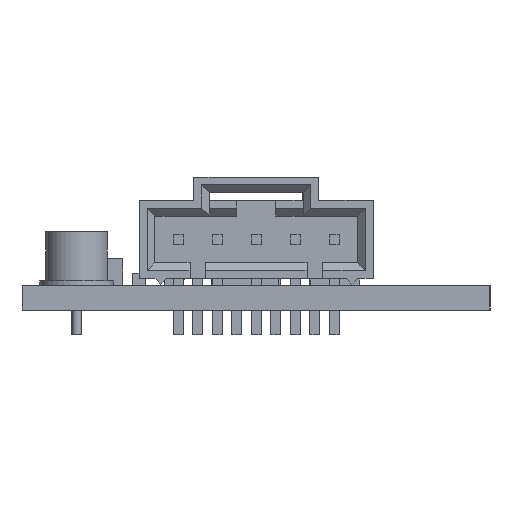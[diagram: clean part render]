
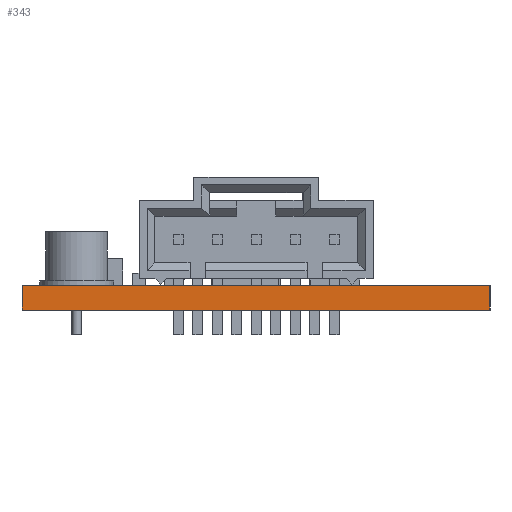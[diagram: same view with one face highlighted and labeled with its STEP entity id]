
A CAD part, left-side view. The second image highlights one B-rep face of the part: STEP entity #343.
In plain terms, the highlighted planar face has unit normal (-1, 0, 0).
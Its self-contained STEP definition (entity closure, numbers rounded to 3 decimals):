
#80 = EDGE_CURVE('',#81,#83,#85,.T.);
#81 = VERTEX_POINT('',#82);
#82 = CARTESIAN_POINT('',(0.,0.,0.));
#83 = VERTEX_POINT('',#84);
#84 = CARTESIAN_POINT('',(0.,0.,1.6));
#85 = SURFACE_CURVE('',#86,(#90,#102),.PCURVE_S1.);
#86 = LINE('',#87,#88);
#87 = CARTESIAN_POINT('',(0.,0.,0.));
#88 = VECTOR('',#89,1.);
#89 = DIRECTION('',(0.,0.,1.));
#90 = PCURVE('',#91,#96);
#91 = PLANE('',#92);
#92 = AXIS2_PLACEMENT_3D('',#93,#94,#95);
#93 = CARTESIAN_POINT('',(0.,0.,0.));
#94 = DIRECTION('',(0.,1.,0.));
#95 = DIRECTION('',(1.,0.,0.));
#96 = DEFINITIONAL_REPRESENTATION('',(#97),#101);
#97 = LINE('',#98,#99);
#98 = CARTESIAN_POINT('',(0.,0.));
#99 = VECTOR('',#100,1.);
#100 = DIRECTION('',(0.,-1.));
#101 = ( GEOMETRIC_REPRESENTATION_CONTEXT(2) 
PARAMETRIC_REPRESENTATION_CONTEXT() REPRESENTATION_CONTEXT('2D SPACE',''
  ) );
#102 = PCURVE('',#103,#108);
#103 = PLANE('',#104);
#104 = AXIS2_PLACEMENT_3D('',#105,#106,#107);
#105 = CARTESIAN_POINT('',(0.,30.48,0.));
#106 = DIRECTION('',(1.,0.,0.));
#107 = DIRECTION('',(0.,-1.,0.));
#108 = DEFINITIONAL_REPRESENTATION('',(#109),#113);
#109 = LINE('',#110,#111);
#110 = CARTESIAN_POINT('',(30.48,0.));
#111 = VECTOR('',#112,1.);
#112 = DIRECTION('',(0.,-1.));
#113 = ( GEOMETRIC_REPRESENTATION_CONTEXT(2) 
PARAMETRIC_REPRESENTATION_CONTEXT() REPRESENTATION_CONTEXT('2D SPACE',''
  ) );
#131 = PLANE('',#132);
#132 = AXIS2_PLACEMENT_3D('',#133,#134,#135);
#133 = CARTESIAN_POINT('',(0.,0.,1.6));
#134 = DIRECTION('',(0.,0.,-1.));
#135 = DIRECTION('',(-1.,0.,0.));
#185 = PLANE('',#186);
#186 = AXIS2_PLACEMENT_3D('',#187,#188,#189);
#187 = CARTESIAN_POINT('',(0.,0.,0.));
#188 = DIRECTION('',(0.,0.,-1.));
#189 = DIRECTION('',(-1.,0.,0.));
#240 = PLANE('',#241);
#241 = AXIS2_PLACEMENT_3D('',#242,#243,#244);
#242 = CARTESIAN_POINT('',(45.72,30.48,0.));
#243 = DIRECTION('',(0.,-1.,0.));
#244 = DIRECTION('',(-1.,0.,0.));
#278 = VERTEX_POINT('',#279);
#279 = CARTESIAN_POINT('',(0.,30.48,1.6));
#300 = EDGE_CURVE('',#301,#278,#303,.T.);
#301 = VERTEX_POINT('',#302);
#302 = CARTESIAN_POINT('',(0.,30.48,0.));
#303 = SURFACE_CURVE('',#304,(#308,#315),.PCURVE_S1.);
#304 = LINE('',#305,#306);
#305 = CARTESIAN_POINT('',(0.,30.48,0.));
#306 = VECTOR('',#307,1.);
#307 = DIRECTION('',(0.,0.,1.));
#308 = PCURVE('',#240,#309);
#309 = DEFINITIONAL_REPRESENTATION('',(#310),#314);
#310 = LINE('',#311,#312);
#311 = CARTESIAN_POINT('',(45.72,0.));
#312 = VECTOR('',#313,1.);
#313 = DIRECTION('',(0.,-1.));
#314 = ( GEOMETRIC_REPRESENTATION_CONTEXT(2) 
PARAMETRIC_REPRESENTATION_CONTEXT() REPRESENTATION_CONTEXT('2D SPACE',''
  ) );
#315 = PCURVE('',#103,#316);
#316 = DEFINITIONAL_REPRESENTATION('',(#317),#321);
#317 = LINE('',#318,#319);
#318 = CARTESIAN_POINT('',(0.,0.));
#319 = VECTOR('',#320,1.);
#320 = DIRECTION('',(0.,-1.));
#321 = ( GEOMETRIC_REPRESENTATION_CONTEXT(2) 
PARAMETRIC_REPRESENTATION_CONTEXT() REPRESENTATION_CONTEXT('2D SPACE',''
  ) );
#343 = ADVANCED_FACE('',(#344),#103,.F.);
#344 = FACE_BOUND('',#345,.F.);
#345 = EDGE_LOOP('',(#346,#347,#368,#369));
#346 = ORIENTED_EDGE('',*,*,#300,.T.);
#347 = ORIENTED_EDGE('',*,*,#348,.T.);
#348 = EDGE_CURVE('',#278,#83,#349,.T.);
#349 = SURFACE_CURVE('',#350,(#354,#361),.PCURVE_S1.);
#350 = LINE('',#351,#352);
#351 = CARTESIAN_POINT('',(0.,30.48,1.6));
#352 = VECTOR('',#353,1.);
#353 = DIRECTION('',(0.,-1.,0.));
#354 = PCURVE('',#103,#355);
#355 = DEFINITIONAL_REPRESENTATION('',(#356),#360);
#356 = LINE('',#357,#358);
#357 = CARTESIAN_POINT('',(0.,-1.6));
#358 = VECTOR('',#359,1.);
#359 = DIRECTION('',(1.,0.));
#360 = ( GEOMETRIC_REPRESENTATION_CONTEXT(2) 
PARAMETRIC_REPRESENTATION_CONTEXT() REPRESENTATION_CONTEXT('2D SPACE',''
  ) );
#361 = PCURVE('',#131,#362);
#362 = DEFINITIONAL_REPRESENTATION('',(#363),#367);
#363 = LINE('',#364,#365);
#364 = CARTESIAN_POINT('',(0.,30.48));
#365 = VECTOR('',#366,1.);
#366 = DIRECTION('',(0.,-1.));
#367 = ( GEOMETRIC_REPRESENTATION_CONTEXT(2) 
PARAMETRIC_REPRESENTATION_CONTEXT() REPRESENTATION_CONTEXT('2D SPACE',''
  ) );
#368 = ORIENTED_EDGE('',*,*,#80,.F.);
#369 = ORIENTED_EDGE('',*,*,#370,.F.);
#370 = EDGE_CURVE('',#301,#81,#371,.T.);
#371 = SURFACE_CURVE('',#372,(#376,#383),.PCURVE_S1.);
#372 = LINE('',#373,#374);
#373 = CARTESIAN_POINT('',(0.,30.48,0.));
#374 = VECTOR('',#375,1.);
#375 = DIRECTION('',(0.,-1.,0.));
#376 = PCURVE('',#103,#377);
#377 = DEFINITIONAL_REPRESENTATION('',(#378),#382);
#378 = LINE('',#379,#380);
#379 = CARTESIAN_POINT('',(0.,0.));
#380 = VECTOR('',#381,1.);
#381 = DIRECTION('',(1.,0.));
#382 = ( GEOMETRIC_REPRESENTATION_CONTEXT(2) 
PARAMETRIC_REPRESENTATION_CONTEXT() REPRESENTATION_CONTEXT('2D SPACE',''
  ) );
#383 = PCURVE('',#185,#384);
#384 = DEFINITIONAL_REPRESENTATION('',(#385),#389);
#385 = LINE('',#386,#387);
#386 = CARTESIAN_POINT('',(0.,30.48));
#387 = VECTOR('',#388,1.);
#388 = DIRECTION('',(0.,-1.));
#389 = ( GEOMETRIC_REPRESENTATION_CONTEXT(2) 
PARAMETRIC_REPRESENTATION_CONTEXT() REPRESENTATION_CONTEXT('2D SPACE',''
  ) );
